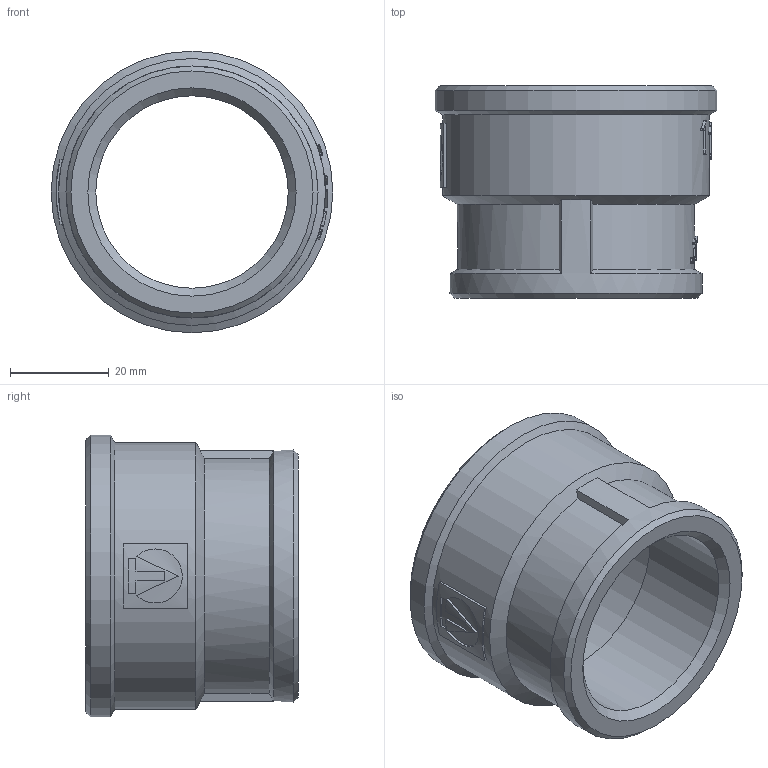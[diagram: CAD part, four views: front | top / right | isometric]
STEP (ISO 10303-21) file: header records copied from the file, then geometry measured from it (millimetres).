
FILE_DESCRIPTION(('STEP AP203'), '1');
FILE_NAME('ﾂﾐ.714361.009 - VTr.240.N.0807 ﾌ G1 1-21 1-4', '2024-06-27T08:13:27', ('Boss'), (''), 'C3D Converter', 'C3D Toolkit', '');
FILE_SCHEMA(('CONFIG_CONTROL_DESIGN'));
Length unit declared in the file: millimetre
Products named in the file (1): ВР.714361.009
Bounding box: 57 x 43 x 57 mm (x, y, z)
Volume: 32112.2 mm3; surface area: 15016 mm2
Topology: 1 solids, 1 shells, 244 faces, 676 edges, 448 vertices
Faces by surface type: extrusion 132, plane 80, cylinder 23, cone 9
Full cylindrical faces by diameter (mm): 38.953 x1, 44.846 x1, 51 x1, 54 x1, 57 x1
Entity records: 10787 total; most frequent: CARTESIAN_POINT 5311, ORIENTED_EDGE 1330, DIRECTION 711, EDGE_CURVE 665, VERTEX_POINT 448, B_SPLINE_CURVE_WITH_KNOTS 406, VECTOR 385, EDGE_LOOP 271
